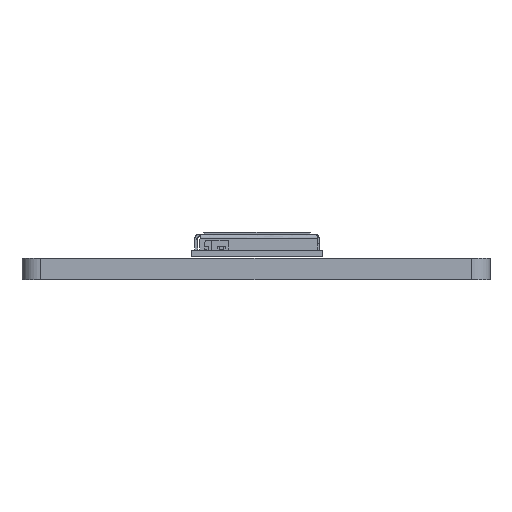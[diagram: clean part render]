
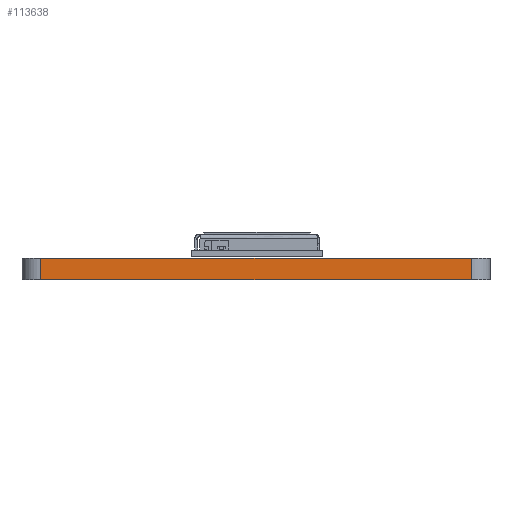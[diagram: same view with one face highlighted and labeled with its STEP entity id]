
A CAD part, front view. The second image highlights one B-rep face of the part: STEP entity #113638.
In plain terms, the highlighted planar face has unit normal (0, -1, 0).
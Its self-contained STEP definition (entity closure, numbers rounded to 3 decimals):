
#110921 = PLANE('',#110922);
#110922 = AXIS2_PLACEMENT_3D('',#110923,#110924,#110925);
#110923 = CARTESIAN_POINT('',(17.5,23.501,1.6));
#110924 = DIRECTION('',(-0.,-0.,-1.));
#110925 = DIRECTION('',(-1.,0.,0.));
#110949 = CYLINDRICAL_SURFACE('',#110950,1.4);
#110950 = AXIS2_PLACEMENT_3D('',#110951,#110952,#110953);
#110951 = CARTESIAN_POINT('',(33.6,1.4,0.));
#110952 = DIRECTION('',(-0.,-0.,-1.));
#110953 = DIRECTION('',(1.,0.,-0.));
#110975 = PLANE('',#110976);
#110976 = AXIS2_PLACEMENT_3D('',#110977,#110978,#110979);
#110977 = CARTESIAN_POINT('',(17.5,23.501,0.));
#110978 = DIRECTION('',(-0.,-0.,-1.));
#110979 = DIRECTION('',(-1.,0.,0.));
#111076 = EDGE_CURVE('',#111077,#111079,#111081,.T.);
#111077 = VERTEX_POINT('',#111078);
#111078 = CARTESIAN_POINT('',(33.6,0.,0.));
#111079 = VERTEX_POINT('',#111080);
#111080 = CARTESIAN_POINT('',(33.6,0.,1.6));
#111081 = SURFACE_CURVE('',#111082,(#111086,#111093),.PCURVE_S1.);
#111082 = LINE('',#111083,#111084);
#111083 = CARTESIAN_POINT('',(33.6,0.,0.));
#111084 = VECTOR('',#111085,1.);
#111085 = DIRECTION('',(0.,0.,1.));
#111086 = PCURVE('',#110949,#111087);
#111087 = DEFINITIONAL_REPRESENTATION('',(#111088),#111092);
#111088 = LINE('',#111089,#111090);
#111089 = CARTESIAN_POINT('',(-4.713,0.));
#111090 = VECTOR('',#111091,1.);
#111091 = DIRECTION('',(-0.,-1.));
#111092 = ( GEOMETRIC_REPRESENTATION_CONTEXT(2) 
PARAMETRIC_REPRESENTATION_CONTEXT() REPRESENTATION_CONTEXT('2D SPACE',''
  ) );
#111093 = PCURVE('',#111094,#111099);
#111094 = PLANE('',#111095);
#111095 = AXIS2_PLACEMENT_3D('',#111096,#111097,#111098);
#111096 = CARTESIAN_POINT('',(33.6,0.,0.));
#111097 = DIRECTION('',(0.,-1.,0.));
#111098 = DIRECTION('',(-1.,0.,0.));
#111099 = DEFINITIONAL_REPRESENTATION('',(#111100),#111104);
#111100 = LINE('',#111101,#111102);
#111101 = CARTESIAN_POINT('',(0.,0.));
#111102 = VECTOR('',#111103,1.);
#111103 = DIRECTION('',(0.,-1.));
#111104 = ( GEOMETRIC_REPRESENTATION_CONTEXT(2) 
PARAMETRIC_REPRESENTATION_CONTEXT() REPRESENTATION_CONTEXT('2D SPACE',''
  ) );
#111164 = EDGE_CURVE('',#111077,#111165,#111167,.T.);
#111165 = VERTEX_POINT('',#111166);
#111166 = CARTESIAN_POINT('',(1.4,-0.,0.));
#111167 = SURFACE_CURVE('',#111168,(#111172,#111179),.PCURVE_S1.);
#111168 = LINE('',#111169,#111170);
#111169 = CARTESIAN_POINT('',(33.6,0.,0.));
#111170 = VECTOR('',#111171,1.);
#111171 = DIRECTION('',(-1.,0.,0.));
#111172 = PCURVE('',#110975,#111173);
#111173 = DEFINITIONAL_REPRESENTATION('',(#111174),#111178);
#111174 = LINE('',#111175,#111176);
#111175 = CARTESIAN_POINT('',(-16.101,-23.501));
#111176 = VECTOR('',#111177,1.);
#111177 = DIRECTION('',(1.,0.));
#111178 = ( GEOMETRIC_REPRESENTATION_CONTEXT(2) 
PARAMETRIC_REPRESENTATION_CONTEXT() REPRESENTATION_CONTEXT('2D SPACE',''
  ) );
#111179 = PCURVE('',#111094,#111180);
#111180 = DEFINITIONAL_REPRESENTATION('',(#111181),#111185);
#111181 = LINE('',#111182,#111183);
#111182 = CARTESIAN_POINT('',(0.,0.));
#111183 = VECTOR('',#111184,1.);
#111184 = DIRECTION('',(1.,0.));
#111185 = ( GEOMETRIC_REPRESENTATION_CONTEXT(2) 
PARAMETRIC_REPRESENTATION_CONTEXT() REPRESENTATION_CONTEXT('2D SPACE',''
  ) );
#111208 = CYLINDRICAL_SURFACE('',#111209,1.4);
#111209 = AXIS2_PLACEMENT_3D('',#111210,#111211,#111212);
#111210 = CARTESIAN_POINT('',(1.4,1.4,0.));
#111211 = DIRECTION('',(-0.,-0.,-1.));
#111212 = DIRECTION('',(1.,0.,-0.));
#112488 = EDGE_CURVE('',#111079,#112489,#112491,.T.);
#112489 = VERTEX_POINT('',#112490);
#112490 = CARTESIAN_POINT('',(1.4,0.,1.6));
#112491 = SURFACE_CURVE('',#112492,(#112496,#112503),.PCURVE_S1.);
#112492 = LINE('',#112493,#112494);
#112493 = CARTESIAN_POINT('',(33.6,0.,1.6));
#112494 = VECTOR('',#112495,1.);
#112495 = DIRECTION('',(-1.,0.,0.));
#112496 = PCURVE('',#110921,#112497);
#112497 = DEFINITIONAL_REPRESENTATION('',(#112498),#112502);
#112498 = LINE('',#112499,#112500);
#112499 = CARTESIAN_POINT('',(-16.101,-23.501));
#112500 = VECTOR('',#112501,1.);
#112501 = DIRECTION('',(1.,0.));
#112502 = ( GEOMETRIC_REPRESENTATION_CONTEXT(2) 
PARAMETRIC_REPRESENTATION_CONTEXT() REPRESENTATION_CONTEXT('2D SPACE',''
  ) );
#112503 = PCURVE('',#111094,#112504);
#112504 = DEFINITIONAL_REPRESENTATION('',(#112505),#112509);
#112505 = LINE('',#112506,#112507);
#112506 = CARTESIAN_POINT('',(0.,-1.6));
#112507 = VECTOR('',#112508,1.);
#112508 = DIRECTION('',(1.,0.));
#112509 = ( GEOMETRIC_REPRESENTATION_CONTEXT(2) 
PARAMETRIC_REPRESENTATION_CONTEXT() REPRESENTATION_CONTEXT('2D SPACE',''
  ) );
#113638 = ADVANCED_FACE('',(#113639),#111094,.T.);
#113639 = FACE_BOUND('',#113640,.T.);
#113640 = EDGE_LOOP('',(#113641,#113642,#113643,#113664));
#113641 = ORIENTED_EDGE('',*,*,#111076,.T.);
#113642 = ORIENTED_EDGE('',*,*,#112488,.T.);
#113643 = ORIENTED_EDGE('',*,*,#113644,.F.);
#113644 = EDGE_CURVE('',#111165,#112489,#113645,.T.);
#113645 = SURFACE_CURVE('',#113646,(#113650,#113657),.PCURVE_S1.);
#113646 = LINE('',#113647,#113648);
#113647 = CARTESIAN_POINT('',(1.4,-0.,0.));
#113648 = VECTOR('',#113649,1.);
#113649 = DIRECTION('',(0.,0.,1.));
#113650 = PCURVE('',#111094,#113651);
#113651 = DEFINITIONAL_REPRESENTATION('',(#113652),#113656);
#113652 = LINE('',#113653,#113654);
#113653 = CARTESIAN_POINT('',(32.2,0.));
#113654 = VECTOR('',#113655,1.);
#113655 = DIRECTION('',(0.,-1.));
#113656 = ( GEOMETRIC_REPRESENTATION_CONTEXT(2) 
PARAMETRIC_REPRESENTATION_CONTEXT() REPRESENTATION_CONTEXT('2D SPACE',''
  ) );
#113657 = PCURVE('',#111208,#113658);
#113658 = DEFINITIONAL_REPRESENTATION('',(#113659),#113663);
#113659 = LINE('',#113660,#113661);
#113660 = CARTESIAN_POINT('',(-4.712,0.));
#113661 = VECTOR('',#113662,1.);
#113662 = DIRECTION('',(-0.,-1.));
#113663 = ( GEOMETRIC_REPRESENTATION_CONTEXT(2) 
PARAMETRIC_REPRESENTATION_CONTEXT() REPRESENTATION_CONTEXT('2D SPACE',''
  ) );
#113664 = ORIENTED_EDGE('',*,*,#111164,.F.);
